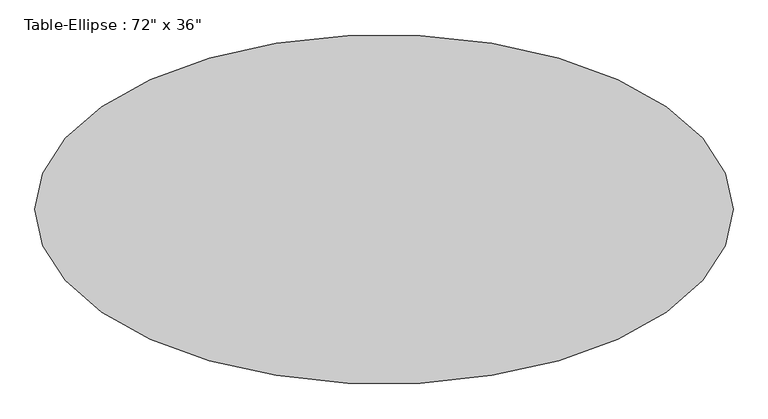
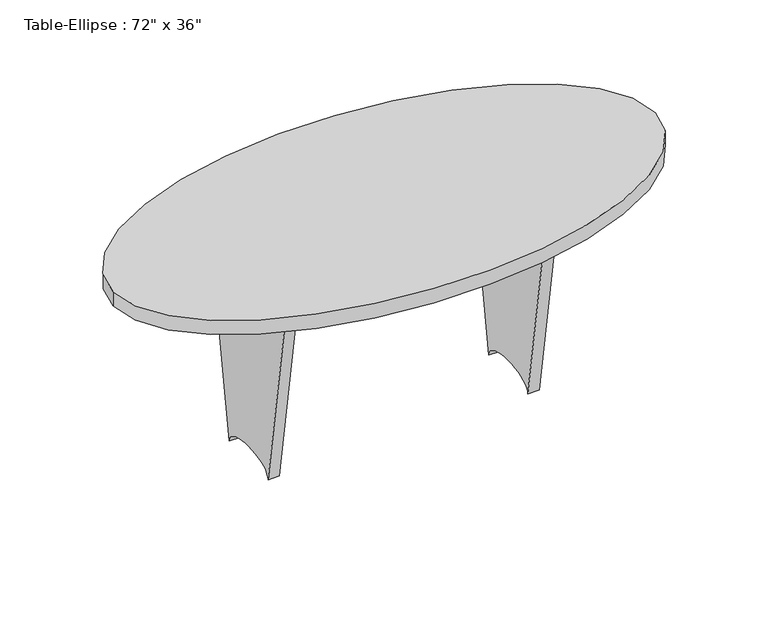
"""IFC4 building model written with IfcOpenShell, lengths in millimetres: furniture geometry."""

from ifc_helpers import new_model, si_unit, point, frame, origin, place, context, project, spatial, ellipse_curve, trimmed, source, transform, mapped, element, save
from ifc_brep_helpers import plane_surface, extruded_surface, advanced_brep


def furniture_a7425590(model_context):
    return source(origin(), model_context, "Body", "AdvancedBrep", [
        advanced_brep(
        [(-914.4, 0.0, 762.0), (914.4, 0.0, 762.0), (-914.4, 0.0, 711.2), (914.4, 0.0, 711.2)],
        [
            (0, 1, ellipse_curve(frame((0.0, 0.0, 762.0), z_axis=(0.0, 0.0, 1.0), x_axis=(1.0, 0.0, 0.0)), 914.4, 457.2)),
            (1, 0, ellipse_curve(frame((0.0, 0.0, 762.0), z_axis=(0.0, 0.0, 1.0), x_axis=(1.0, 0.0, 0.0)), 914.4, 457.2)),
            (2, 3, ellipse_curve(frame((0.0, 0.0, 711.2), z_axis=(0.0, 0.0, -1.0), x_axis=(1.0, 0.0, 0.0)), 914.4, 457.2)),
            (3, 2, ellipse_curve(frame((0.0, 0.0, 711.2), z_axis=(0.0, 0.0, -1.0), x_axis=(1.0, 0.0, 0.0)), 914.4, 457.2)),
            (1, 3),
            (2, 0),
        ],
        [
            plane_surface(frame((914.4, 0.0, 762.0), z_axis=(0.0, 0.0, 1.0), x_axis=(0.0, -1.0, 0.0))),
            plane_surface(frame((914.4, 0.0, 711.2), z_axis=(0.0, 0.0, -1.0), x_axis=(0.0, 1.0, 0.0))),
            extruded_surface(trimmed(ellipse_curve(frame((0.0, 0.0, 711.2), z_axis=(0.0, 0.0, -1.0), x_axis=(1.0, 0.0, 0.0)), 914.4, 457.2), [point((-914.4, 0.0, 711.2))], [point((914.4, 0.0, 711.2))], True, "CARTESIAN"), (0.0, 0.0, -50.80000000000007), 50.80000000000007),
            extruded_surface(trimmed(ellipse_curve(frame((0.0, 0.0, 711.2), z_axis=(0.0, 0.0, -1.0), x_axis=(1.0, 0.0, 0.0)), 914.4, 457.2), [point((914.4, 0.0, 711.2))], [point((-914.4, 0.0, 711.2))], True, "CARTESIAN"), (0.0, 0.0, -50.80000000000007), 50.80000000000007),
        ],
        [
            (0, [[1, 2]]),
            (1, [[3, 4]]),
            (2, [[5, -3, 6, -2]]),
            (3, [[-6, -4, -5, -1]]),
        ],
    ),
        advanced_brep(
        [(-419.1, -19.05, 711.2), (-419.1, -19.05, 474.1333333), (419.1, -19.05, 474.1333333), (419.1, -19.05, 711.2), (-419.1, 19.05, 711.2), (419.1, 19.05, 711.2), (419.1, 19.05, 474.1333333), (-419.1, 19.05, 474.1333333)],
        [
            (0, 1),
            (1, 2, ellipse_curve(frame((0.0, -19.05, 474.1333333), z_axis=(0.0, 1.0, 0.0), x_axis=(1.0, 0.0, 0.0)), 419.1, 101.6)),
            (2, 3),
            (3, 0),
            (4, 5),
            (5, 6),
            (6, 7, ellipse_curve(frame((0.0, 19.05, 474.1333333), z_axis=(0.0, -1.0, 0.0), x_axis=(1.0, 0.0, 0.0)), 419.1, 101.6)),
            (7, 4),
            (3, 5),
            (4, 0),
            (2, 6),
            (1, 7),
        ],
        [
            plane_surface(frame((-419.1, -19.05, 711.2), z_axis=(0.0, -1.0, 0.0), x_axis=(1.0, 0.0, 0.0))),
            plane_surface(frame((-419.1, 19.05, 711.2), z_axis=(0.0, 1.0, 0.0), x_axis=(-1.0, 0.0, 0.0))),
            plane_surface(frame((-419.1, -19.05, 711.2), z_axis=(0.0, 0.0, 1.0), x_axis=(0.0, 1.0, 0.0))),
            plane_surface(frame((419.1, -19.05, 711.2), z_axis=(1.0, 0.0, 0.0), x_axis=(0.0, 1.0, 0.0))),
            extruded_surface(trimmed(ellipse_curve(frame((0.0, 19.05, 474.1333333), z_axis=(0.0, -1.0, 0.0), x_axis=(1.0, 0.0, 0.0)), 419.1, 101.6), [point((419.1, 19.05, 474.1333333))], [point((-419.1, 19.05, 474.1333333))], True, "CARTESIAN"), (0.0, 38.099999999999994, 0.0), 38.099999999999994),
            plane_surface(frame((-419.1, -19.05, 474.1333333), z_axis=(-1.0, 0.0, 0.0), x_axis=(0.0, 1.0, 0.0))),
        ],
        [
            (0, [[1, 2, 3, 4]]),
            (1, [[5, 6, 7, 8]]),
            (2, [[9, -5, 10, -4]]),
            (3, [[11, -6, -9, -3]]),
            (4, [[12, -7, -11, -2]]),
            (5, [[-10, -8, -12, -1]]),
        ],
    ),
        advanced_brep(
        [(457.2, -228.6, 711.2), (457.2, -114.3, 0.0), (457.2, 114.3, 0.0), (457.2, 228.6, 711.2), (419.1, -228.6, 711.2), (419.1, 228.6, 711.2), (419.1, 114.3, 0.0), (419.1, -114.3, 0.0)],
        [
            (0, 1),
            (1, 2, ellipse_curve(frame((457.2, 0.0, 0.0), z_axis=(-1.0, 0.0, 0.0), x_axis=(0.0, -1.0, 0.0)), 114.3, 50.8)),
            (2, 3),
            (3, 0),
            (4, 5),
            (5, 6),
            (6, 7, ellipse_curve(frame((419.1, 0.0, 0.0), z_axis=(1.0, 0.0, 0.0), x_axis=(0.0, -1.0, 0.0)), 114.3, 50.8)),
            (7, 4),
            (3, 5),
            (4, 0),
            (2, 6),
            (1, 7),
        ],
        [
            plane_surface(frame((457.2, 228.6, 711.2), z_axis=(1.0, 0.0, 0.0), x_axis=(0.0, 1.0, 0.0))),
            plane_surface(frame((419.1, 228.6, 711.2), z_axis=(-1.0, 0.0, 0.0), x_axis=(0.0, -1.0, 0.0))),
            plane_surface(frame((457.2, -228.6, 711.2), z_axis=(0.0, 0.0, 1.0), x_axis=(-1.0, 0.0, 0.0))),
            plane_surface(frame((457.2, 228.6, 711.2), z_axis=(0.0, 0.9873303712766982, -0.158678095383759), x_axis=(-1.0, 0.0, 0.0))),
            extruded_surface(trimmed(ellipse_curve(frame((419.1, 0.0, 0.0), z_axis=(1.0, 0.0, 0.0), x_axis=(0.0, -1.0, 0.0)), 114.3, 50.8), [point((419.1, 114.3, 0.0))], [point((419.1, -114.3, 0.0))], True, "CARTESIAN"), (-38.10000000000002, 0.0, 0.0), 38.10000000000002),
            plane_surface(frame((457.2, -114.3, 0.0), z_axis=(0.0, -0.9873303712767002, -0.1586780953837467), x_axis=(-1.0, 0.0, 0.0))),
        ],
        [
            (0, [[1, 2, 3, 4]]),
            (1, [[5, 6, 7, 8]]),
            (2, [[9, -5, 10, -4]]),
            (3, [[11, -6, -9, -3]]),
            (4, [[12, -7, -11, -2]]),
            (5, [[-10, -8, -12, -1]]),
        ],
    ),
        advanced_brep(
        [(-419.1, -228.6, 711.2), (-419.1, -114.3, 0.0), (-419.1, 114.3, 0.0), (-419.1, 228.6, 711.2), (-457.2, -228.6, 711.2), (-457.2, 228.6, 711.2), (-457.2, 114.3, 0.0), (-457.2, -114.3, 0.0)],
        [
            (0, 1),
            (1, 2, ellipse_curve(frame((-419.1, 0.0, 0.0), z_axis=(-1.0, 0.0, 0.0), x_axis=(0.0, -1.0, 0.0)), 114.3, 50.8)),
            (2, 3),
            (3, 0),
            (4, 5),
            (5, 6),
            (6, 7, ellipse_curve(frame((-457.2, 0.0, 0.0), z_axis=(1.0, 0.0, 0.0), x_axis=(0.0, -1.0, 0.0)), 114.3, 50.8)),
            (7, 4),
            (3, 5),
            (4, 0),
            (2, 6),
            (1, 7),
        ],
        [
            plane_surface(frame((-419.1, 228.6, 711.2), z_axis=(1.0, 0.0, 0.0), x_axis=(0.0, 1.0, 0.0))),
            plane_surface(frame((-457.2, 228.6, 711.2), z_axis=(-1.0, 0.0, 0.0), x_axis=(0.0, -1.0, 0.0))),
            plane_surface(frame((-419.1, -228.6, 711.2), z_axis=(0.0, 0.0, 1.0), x_axis=(-1.0, 0.0, 0.0))),
            plane_surface(frame((-419.1, 228.6, 711.2), z_axis=(0.0, 0.9873303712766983, -0.15867809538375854), x_axis=(-1.0, 0.0, 0.0))),
            extruded_surface(trimmed(ellipse_curve(frame((-457.2, 0.0, 0.0), z_axis=(1.0, 0.0, 0.0), x_axis=(0.0, -1.0, 0.0)), 114.3, 50.8), [point((-457.2, 114.3, 0.0))], [point((-457.2, -114.3, 0.0))], True, "CARTESIAN"), (-38.10000000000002, 0.0, 0.0), 38.10000000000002),
            plane_surface(frame((-419.1, -114.3, 0.0), z_axis=(0.0, -0.9873303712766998, -0.15867809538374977), x_axis=(-1.0, 0.0, 0.0))),
        ],
        [
            (0, [[1, 2, 3, 4]]),
            (1, [[5, 6, 7, 8]]),
            (2, [[9, -5, 10, -4]]),
            (3, [[11, -6, -9, -3]]),
            (4, [[12, -7, -11, -2]]),
            (5, [[-10, -8, -12, -1]]),
        ],
    ),
    ])


if __name__ == "__main__":
    model = new_model("IFC4")
    model_context = context("Model", 3, world=origin())
    ifc_project = project(units=[si_unit("LENGTHUNIT", "METRE", prefix="MILLI")], contexts=[model_context])
    site = spatial("IfcSite", under=ifc_project)
    building = spatial("IfcBuilding", under=site)
    placement = place(None, origin())
    furniture_shape = furniture_a7425590(model_context)
    element("IfcFurniture", 1, ObjectType="Table-Ellipse : 72\" x 36\"", at=placement, inside=building, context=model_context, shape_type="MappedRepresentation", body=[
        mapped(furniture_shape, transform((0.0, 0.0, 0.0), x_axis=(1.0, 0.0, 0.0), y_axis=(0.0, 1.0, 0.0), z_axis=(0.0, 0.0, 1.0))),
    ])
    save(model, "model.ifc")
